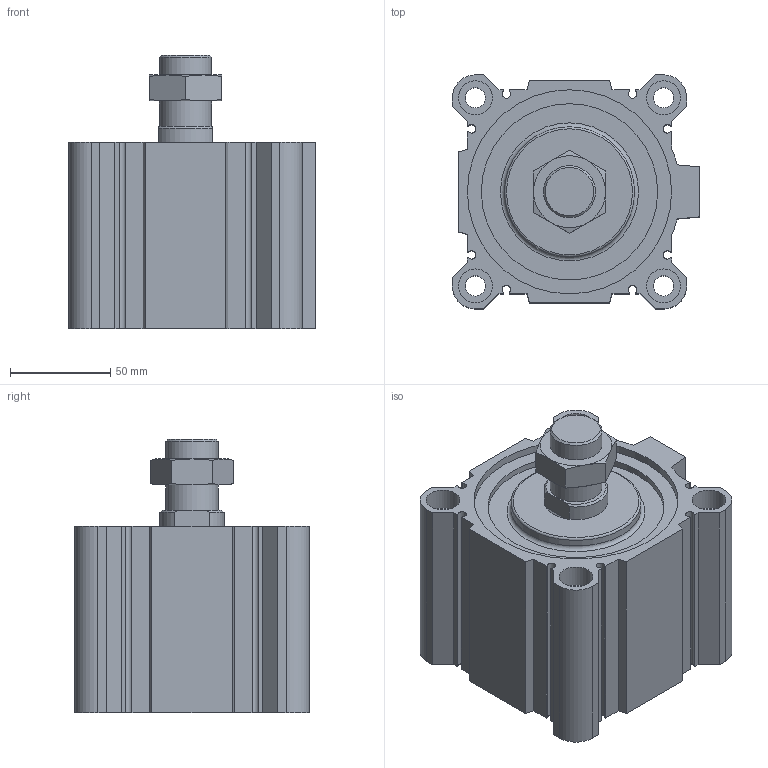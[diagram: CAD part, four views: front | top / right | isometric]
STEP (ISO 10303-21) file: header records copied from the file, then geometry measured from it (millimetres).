
FILE_DESCRIPTION( ( 'STEP AP214' ), '1' );
FILE_NAME( 'C:/Users/emc02044/Desktop/SQN SQN big size/SQN100X30-S-M.stp', '2026-07-29T04:01:09', ( 'License CC BY-ND 4.0' ), ( 'CADENAS' ), ' ', 'PARTsolutions', ' ' );
FILE_SCHEMA( ( 'AUTOMOTIVE_DESIGN { 1 0 10303 214 1 1 1 1 }' ) );
Length unit declared in the file: millimetre
Products named in the file (3): SQN100X30-S-M; _SQ100X30-S(0) ()_body; _SQ100X30-S-M(rod-0)
Assembly tree (2 placements, depth 2):
  SQN100X30-S-M
    _SQ100X30-S(0) ()_body
    _SQ100X30-S-M(rod-0)
Bounding box: 123.5 x 117 x 136.5 mm (x, y, z)
Volume: 826080.2 mm3; surface area: 167752.6 mm2
Topology: 2 solids, 2 shells, 174 faces, 403 edges, 263 vertices
Faces by surface type: plane 104, cylinder 48, cone 19, torus 3
Full cylindrical faces by diameter (mm): 10.106 x8, 10.9 x4, 14.95 x2, 17 x8, 26 x2, 32 x2, 65 x2, 88.1 x2, 100 x2, 102 x2
Entity records: 6224 total; most frequent: CARTESIAN_POINT 925, DIRECTION 804, ORIENTED_EDGE 714, EDGE_CURVE 357, AXIS2_PLACEMENT_3D 298, VERTEX_POINT 259, EDGE_LOOP 254, FACE_OUTER_BOUND 211
